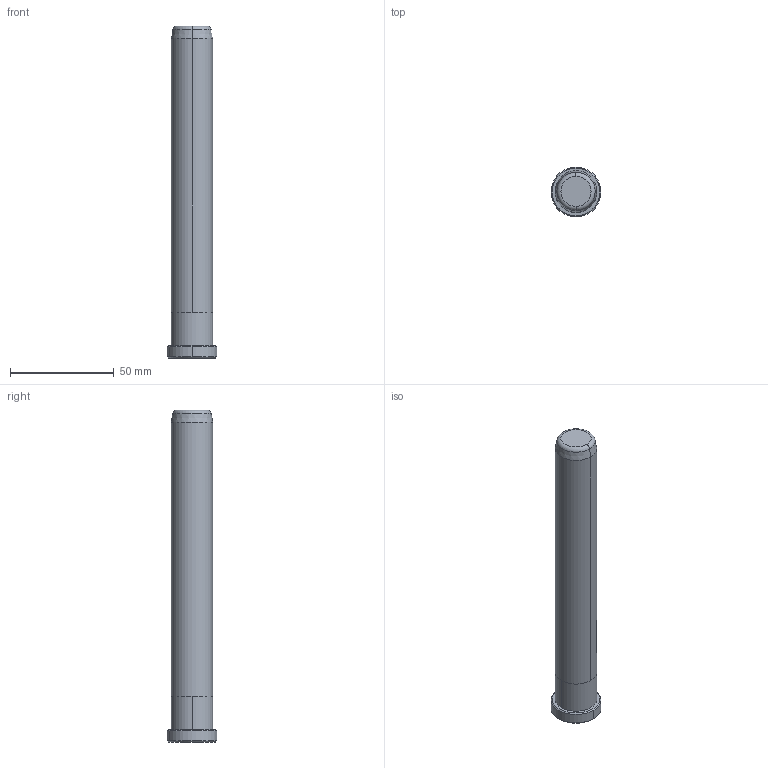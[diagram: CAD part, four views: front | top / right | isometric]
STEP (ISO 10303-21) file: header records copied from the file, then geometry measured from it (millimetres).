
FILE_DESCRIPTION((''),'2;1');
FILE_NAME('B80820160','2018-01-06T',('MANU'),(''),'PRO/ENGINEER BY PARAMETRIC TECHNOLOGY CORPORATION, 2012130','PRO/ENGINEER BY PARAMETRIC TECHNOLOGY CORPORATION, 2012130','');
FILE_SCHEMA(('CONFIG_CONTROL_DESIGN'));
Length unit declared in the file: millimetre
Products named in the file (1): B80820160
Bounding box: 24 x 24 x 160 mm (x, y, z)
Volume: 50863.3 mm3; surface area: 10879 mm2
Topology: 1 solids, 1 shells, 18 faces, 34 edges, 20 vertices
Faces by surface type: cone 6, cylinder 6, plane 4, torus 2
Entity records: 494 total; most frequent: DIRECTION 92, CARTESIAN_POINT 72, ORIENTED_EDGE 68, AXIS2_PLACEMENT_3D 40, EDGE_CURVE 34, CIRCLE 22, VERTEX_POINT 20, EDGE_LOOP 20
